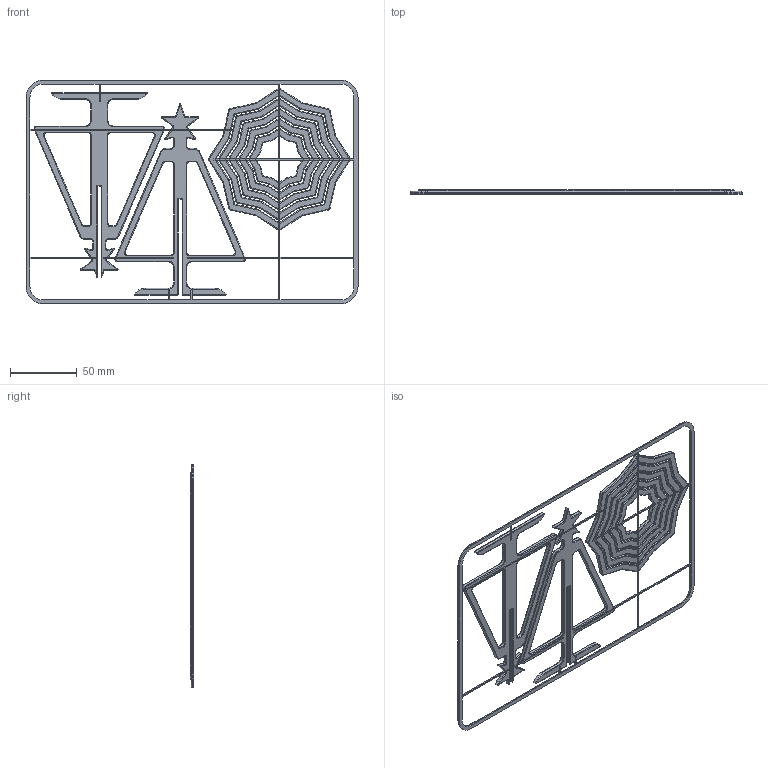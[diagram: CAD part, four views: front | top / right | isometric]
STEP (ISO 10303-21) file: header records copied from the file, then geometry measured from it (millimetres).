
FILE_DESCRIPTION (( 'STEP AP214' ), '1' );
FILE_NAME ('Tannenbaum mit Rahmen.STEP', '2025-12-18T07:32:28', ( '' ), ( '' ), 'SwSTEP 2.0', 'SolidWorks 2022', '' );
FILE_SCHEMA (( 'AUTOMOTIVE_DESIGN' ));
Length unit declared in the file: millimetre
Products named in the file (9): Hälfte_1_Standard; Netz_Standard; Stern_5_Standard; Stern_4_Standard; Stern_3_Standard; Stern_1_Standard; Hälfte_2_Standard; Stern_2_Standard; Tannenbaum mit Rahmen
Assembly tree (8 placements, depth 2):
  Tannenbaum mit Rahmen
    Hälfte_1_Standard
    Hälfte_2_Standard
    Stern_1_Standard
    Stern_2_Standard
    Stern_3_Standard
    Stern_4_Standard
    Stern_5_Standard
    Netz_Standard
Bounding box: 249 x 3 x 168 mm (x, y, z)
Volume: 39994.5 mm3; surface area: 44706.4 mm2
Topology: 9 solids, 9 shells, 1531 faces, 3586 edges, 2038 vertices
Faces by surface type: cylinder 724, torus 460, plane 305, sphere 38, bspline 4
Entity records: 43645 total; most frequent: DIRECTION 8544, CARTESIAN_POINT 7370, ORIENTED_EDGE 7060, EDGE_CURVE 3530, AXIS2_PLACEMENT_3D 3484, VERTEX_POINT 2014, CIRCLE 1946, VECTOR 1576
